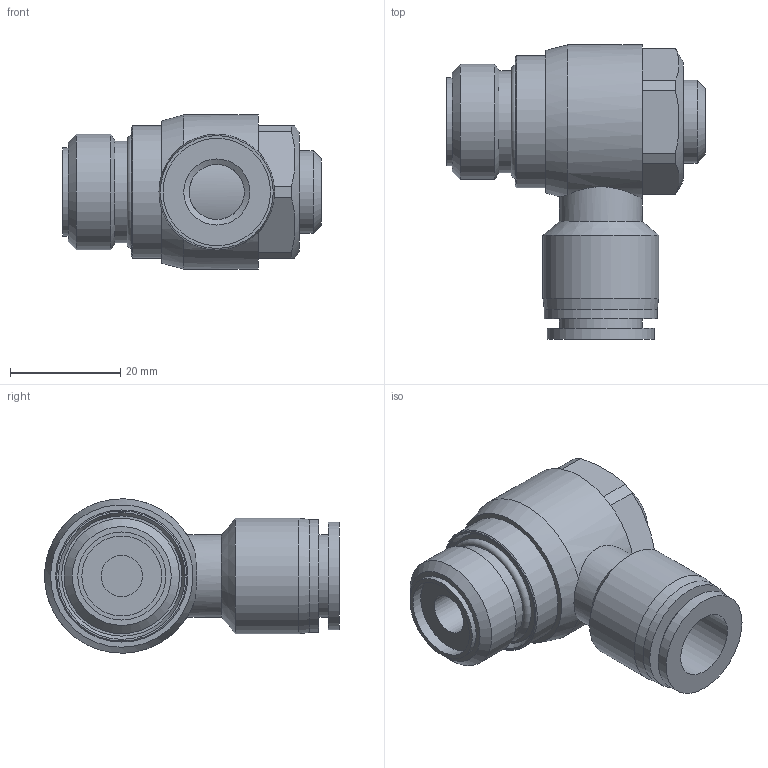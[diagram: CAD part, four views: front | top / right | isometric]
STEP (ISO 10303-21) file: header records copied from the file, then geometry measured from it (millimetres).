
FILE_DESCRIPTION(/* description */ (''),/* implementation_level */ '2;1');
FILE_NAME(/* name */ 'S:\_Tecnico\ArchivioUT\DISEGNI\DISEGNI 3D per ingombri\DP\DP 79\DP79C1212.stp',/* time_stamp */ '2018-12-17T16:41:13+01:00',/* author */ ('UfficioTecnico'),/* organization */ (''),/* preprocessor_version */ 'ST-DEVELOPER v16.1',/* originating_system */ 'Autodesk Inventor 2016',/* authorisation */ '');
FILE_SCHEMA (('AUTOMOTIVE_DESIGN { 1 0 10303 214 3 1 1 }'));
Length unit declared in the file: millimetre
Products named in the file (1): DP79C1212
Bounding box: 47 x 53.5 x 28 mm (x, y, z)
Volume: 24913.2 mm3; surface area: 8256.3 mm2
Topology: 1 solids, 1 shells, 60 faces, 126 edges, 80 vertices
Faces by surface type: plane 30, cylinder 18, cone 11, torus 1
Full cylindrical faces by diameter (mm): 7.5 x1, 9.5 x1, 10 x1, 12 x1, 14.5 x1, 15 x3, 16 x1, 18.5 x2, 19.5 x1, 20.5 x1, 20.955 x1, 21 x1, 24 x1, 28 x1
Entity records: 1498 total; most frequent: CARTESIAN_POINT 324, DIRECTION 240, ORIENTED_EDGE 184, AXIS2_PLACEMENT_3D 104, EDGE_LOOP 100, EDGE_CURVE 92, VERTEX_POINT 74, FACE_OUTER_BOUND 60
